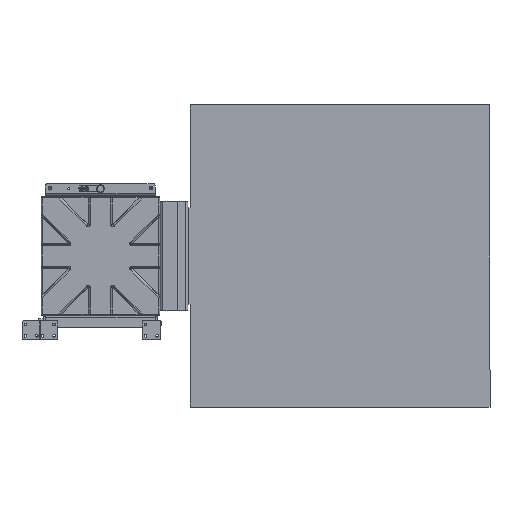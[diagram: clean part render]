
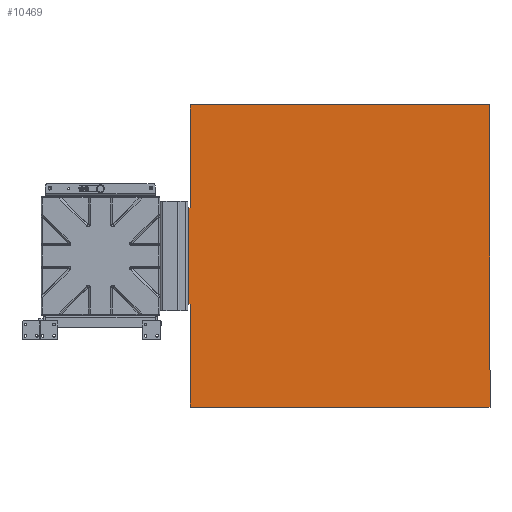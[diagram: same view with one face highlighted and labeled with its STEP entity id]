
A CAD part, front view. The second image highlights one B-rep face of the part: STEP entity #10469.
In plain terms, the highlighted planar face has unit normal (0, -1, 0).
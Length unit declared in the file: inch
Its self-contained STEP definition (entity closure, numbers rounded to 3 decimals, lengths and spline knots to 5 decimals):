
#362 = VERTEX_POINT ( 'NONE', #33851 ) ;
#714 = LINE ( 'NONE', #47594, #35460 ) ;
#1455 = VECTOR ( 'NONE', #26843, 39.37008 ) ;
#1620 = ORIENTED_EDGE ( 'NONE', *, *, #10512, .F. ) ;
#2041 = PLANE ( 'NONE',  #46087 ) ;
#2782 = ORIENTED_EDGE ( 'NONE', *, *, #43639, .F. ) ;
#2837 = DIRECTION ( 'NONE',  ( 0., 0., 1. ) ) ;
#3416 = CARTESIAN_POINT ( 'NONE',  ( 92.25901, 7.8525, -28.75992 ) ) ;
#3697 = ORIENTED_EDGE ( 'NONE', *, *, #16546, .F. ) ;
#4655 = VECTOR ( 'NONE', #43816, 39.37008 ) ;
#5276 = EDGE_CURVE ( 'NONE', #25949, #14809, #50213, .T. ) ;
#5327 = VERTEX_POINT ( 'NONE', #47639 ) ;
#5482 = CARTESIAN_POINT ( 'NONE',  ( 26.42835, 7.8525, 14.74008 ) ) ;
#5925 = LINE ( 'NONE', #30357, #41233 ) ;
#6648 = DIRECTION ( 'NONE',  ( 1., 0., 0. ) ) ;
#9072 = LINE ( 'NONE', #25297, #42851 ) ;
#10469 = ADVANCED_FACE ( 'NONE', ( #37318 ), #2041, .T. ) ;
#10511 = ORIENTED_EDGE ( 'NONE', *, *, #11530, .F. ) ;
#10512 = EDGE_CURVE ( 'NONE', #362, #28040, #38828, .T. ) ;
#11530 = EDGE_CURVE ( 'NONE', #38726, #362, #714, .T. ) ;
#14809 = VERTEX_POINT ( 'NONE', #28836 ) ;
#14922 = CARTESIAN_POINT ( 'NONE',  ( 26.75901, 7.8525, 37.24008 ) ) ;
#15251 = LINE ( 'NONE', #3416, #45617 ) ;
#16546 = EDGE_CURVE ( 'NONE', #42199, #38726, #24734, .T. ) ;
#16575 = CARTESIAN_POINT ( 'NONE',  ( 26.75901, 7.8525, 14.74008 ) ) ;
#18107 = VECTOR ( 'NONE', #22630, 39.37008 ) ;
#18874 = CARTESIAN_POINT ( 'NONE',  ( 26.42835, 7.8525, 14.74008 ) ) ;
#21199 = DIRECTION ( 'NONE',  ( -1., 0., 0. ) ) ;
#21769 = EDGE_CURVE ( 'NONE', #5327, #42199, #9072, .T. ) ;
#22630 = DIRECTION ( 'NONE',  ( 0., 0., 1. ) ) ;
#24033 = VECTOR ( 'NONE', #30632, 39.37008 ) ;
#24734 = LINE ( 'NONE', #44083, #4655 ) ;
#25297 = CARTESIAN_POINT ( 'NONE',  ( 26.75901, 7.8525, -28.75992 ) ) ;
#25949 = VERTEX_POINT ( 'NONE', #37250 ) ;
#26110 = ORIENTED_EDGE ( 'NONE', *, *, #38791, .F. ) ;
#26843 = DIRECTION ( 'NONE',  ( 1., 0., 0. ) ) ;
#27085 = DIRECTION ( 'NONE',  ( 0., 0., -1. ) ) ;
#28040 = VERTEX_POINT ( 'NONE', #5482 ) ;
#28836 = CARTESIAN_POINT ( 'NONE',  ( 92.25901, 7.8525, 37.24008 ) ) ;
#29571 = CARTESIAN_POINT ( 'NONE',  ( 22.38401, 7.8525, 4.24008 ) ) ;
#29936 = CARTESIAN_POINT ( 'NONE',  ( 26.75901, 7.8525, -28.75992 ) ) ;
#30357 = CARTESIAN_POINT ( 'NONE',  ( 26.75901, 7.8525, 14.74008 ) ) ;
#30632 = DIRECTION ( 'NONE',  ( 1., 0., 0. ) ) ;
#31092 = DIRECTION ( 'NONE',  ( 0., -1., 0. ) ) ;
#31103 = EDGE_LOOP ( 'NONE', ( #41634, #33238, #2782, #1620, #10511, #3697, #33083, #26110 ) ) ;
#31994 = VERTEX_POINT ( 'NONE', #16575 ) ;
#33083 = ORIENTED_EDGE ( 'NONE', *, *, #21769, .F. ) ;
#33238 = ORIENTED_EDGE ( 'NONE', *, *, #48002, .F. ) ;
#33851 = CARTESIAN_POINT ( 'NONE',  ( 26.42835, 7.8525, -6.25992 ) ) ;
#34571 = CARTESIAN_POINT ( 'NONE',  ( 26.75901, 7.8525, -6.25992 ) ) ;
#35460 = VECTOR ( 'NONE', #40363, 39.37008 ) ;
#37250 = CARTESIAN_POINT ( 'NONE',  ( 26.75901, 7.8525, 37.24008 ) ) ;
#37318 = FACE_OUTER_BOUND ( 'NONE', #31103, .T. ) ;
#38726 = VERTEX_POINT ( 'NONE', #34571 ) ;
#38791 = EDGE_CURVE ( 'NONE', #14809, #5327, #15251, .T. ) ;
#38828 = LINE ( 'NONE', #50688, #18107 ) ;
#38949 = LINE ( 'NONE', #18874, #1455 ) ;
#40363 = DIRECTION ( 'NONE',  ( -1., 0., 0. ) ) ;
#41233 = VECTOR ( 'NONE', #2837, 39.37008 ) ;
#41634 = ORIENTED_EDGE ( 'NONE', *, *, #5276, .F. ) ;
#42199 = VERTEX_POINT ( 'NONE', #29936 ) ;
#42851 = VECTOR ( 'NONE', #21199, 39.37008 ) ;
#43639 = EDGE_CURVE ( 'NONE', #28040, #31994, #38949, .T. ) ;
#43816 = DIRECTION ( 'NONE',  ( 0., 0., 1. ) ) ;
#44083 = CARTESIAN_POINT ( 'NONE',  ( 26.75901, 7.8525, -28.75992 ) ) ;
#45617 = VECTOR ( 'NONE', #27085, 39.37008 ) ;
#46087 = AXIS2_PLACEMENT_3D ( 'NONE', #29571, #31092, #6648 ) ;
#47594 = CARTESIAN_POINT ( 'NONE',  ( 26.75901, 7.8525, -6.25992 ) ) ;
#47639 = CARTESIAN_POINT ( 'NONE',  ( 92.25901, 7.8525, -28.75992 ) ) ;
#48002 = EDGE_CURVE ( 'NONE', #31994, #25949, #5925, .T. ) ;
#50213 = LINE ( 'NONE', #14922, #24033 ) ;
#50688 = CARTESIAN_POINT ( 'NONE',  ( 26.42835, 7.8525, -6.25992 ) ) ;
